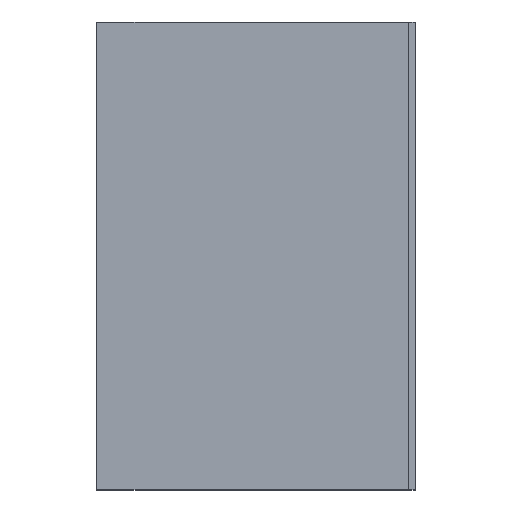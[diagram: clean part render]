
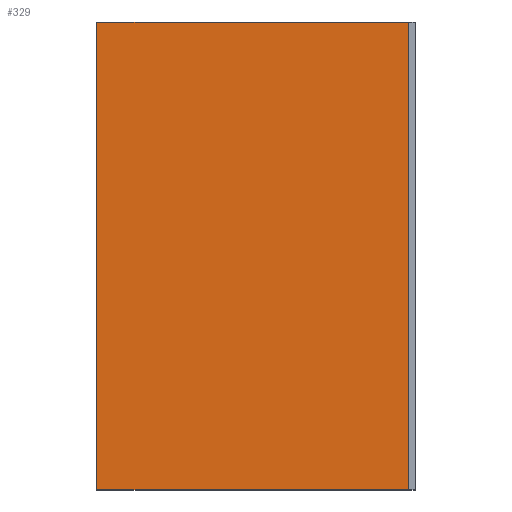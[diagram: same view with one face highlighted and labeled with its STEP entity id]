
A CAD part, left-side view. The second image highlights one B-rep face of the part: STEP entity #329.
In plain terms, the highlighted planar face has unit normal (-1, 0, 0).
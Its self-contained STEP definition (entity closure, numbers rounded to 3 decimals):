
#36 = LINE ( 'NONE', #290, #43 ) ;
#40 = VECTOR ( 'NONE', #230, 1000. ) ;
#41 = VECTOR ( 'NONE', #241, 1000. ) ;
#42 = EDGE_LOOP ( 'NONE', ( #99, #112, #98, #97 ) ) ;
#43 = VECTOR ( 'NONE', #247, 1000. ) ;
#97 = ORIENTED_EDGE ( 'NONE', *, *, #162, .T. ) ;
#98 = ORIENTED_EDGE ( 'NONE', *, *, #122, .F. ) ;
#99 = ORIENTED_EDGE ( 'NONE', *, *, #124, .T. ) ;
#104 = VERTEX_POINT ( 'NONE', #299 ) ;
#110 = VERTEX_POINT ( 'NONE', #292 ) ;
#111 = VERTEX_POINT ( 'NONE', #291 ) ;
#112 = ORIENTED_EDGE ( 'NONE', *, *, #123, .F. ) ;
#113 = LINE ( 'NONE', #239, #41 ) ;
#116 = VERTEX_POINT ( 'NONE', #284 ) ;
#121 = LINE ( 'NONE', #279, #40 ) ;
#122 = EDGE_CURVE ( 'NONE', #110, #116, #36, .T. ) ;
#123 = EDGE_CURVE ( 'NONE', #116, #104, #113, .T. ) ;
#124 = EDGE_CURVE ( 'NONE', #111, #104, #121, .T. ) ;
#162 = EDGE_CURVE ( 'NONE', #110, #111, #365, .T. ) ;
#171 = AXIS2_PLACEMENT_3D ( 'NONE', #238, #232, #231 ) ;
#230 = DIRECTION ( 'NONE',  ( 0., 0., 1. ) ) ;
#231 = DIRECTION ( 'NONE',  ( 0., 0., -1. ) ) ;
#232 = DIRECTION ( 'NONE',  ( 1., 0., 0. ) ) ;
#238 = CARTESIAN_POINT ( 'NONE',  ( 0., 10., -7.5 ) ) ;
#239 = CARTESIAN_POINT ( 'NONE',  ( 0., 10., 7.5 ) ) ;
#240 = PLANE ( 'NONE',  #171 ) ;
#241 = DIRECTION ( 'NONE',  ( 0., -1., 0. ) ) ;
#247 = DIRECTION ( 'NONE',  ( 0., 0., 1. ) ) ;
#267 = DIRECTION ( 'NONE',  ( 0., -1., 0. ) ) ;
#269 = CARTESIAN_POINT ( 'NONE',  ( 0., 10., -7.5 ) ) ;
#279 = CARTESIAN_POINT ( 'NONE',  ( 0., 0., -7.5 ) ) ;
#284 = CARTESIAN_POINT ( 'NONE',  ( 0., 10., 7.5 ) ) ;
#290 = CARTESIAN_POINT ( 'NONE',  ( 0., 10., -7.5 ) ) ;
#291 = CARTESIAN_POINT ( 'NONE',  ( 0., 0., -7.5 ) ) ;
#292 = CARTESIAN_POINT ( 'NONE',  ( 0., 10., -7.5 ) ) ;
#299 = CARTESIAN_POINT ( 'NONE',  ( 0., 0., 7.5 ) ) ;
#329 = ADVANCED_FACE ( 'NONE', ( #358 ), #240, .F. ) ;
#358 = FACE_OUTER_BOUND ( 'NONE', #42, .T. ) ;
#362 = VECTOR ( 'NONE', #267, 1000. ) ;
#365 = LINE ( 'NONE', #269, #362 ) ;
